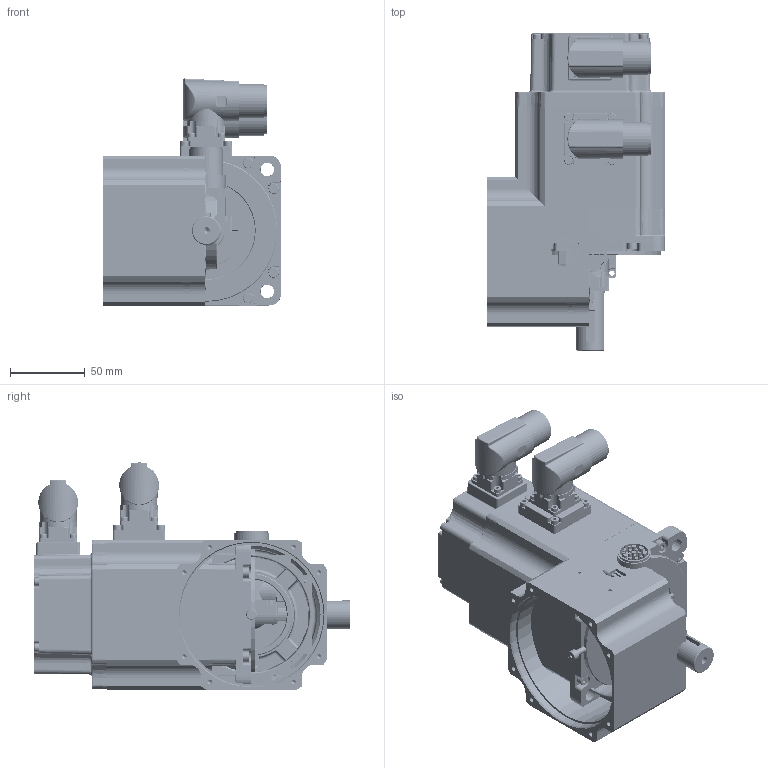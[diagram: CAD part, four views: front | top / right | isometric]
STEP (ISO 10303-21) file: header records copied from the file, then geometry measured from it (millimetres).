
FILE_DESCRIPTION( ( 'Unknown' ), '1' );
FILE_NAME( 'K:/121010-AL Files 3D Step con chiavetta/Q0A517_3,2.stp', 'Unknown', ( 'Unknown' ), ( 'Unknown' ), 'PSStep 14.0', 'Unknown', ' ' );
FILE_SCHEMA( ( 'AUTOMOTIVE_DESIGN { 1 0 10303 214 1 1 1 1 }' ) );
Length unit declared in the file: millimetre
Products named in the file (35): Assem1; anello-elastico-chiuso  52; Vite a brugola testa cil 8,8 -  M  4 x 30; A-Ela 20 P; N11235; N09447; N33454; CUSC_20_52_15_6304_ZZ; CUSC_20_47_14_6204_ZZ; Vite a brugola testa cil 8,8 -  M  4 x 12; Vite a brugola testa cil 8,8 -  M  3 x 40; Vite a brugola testa cil 8,8 -  M  3 x 40-oa0; Vite a brugola testa cil 8,8 -  M  3 x 40-oa1; Vite a brugola testa cil 8,8 -  M  3 x 40-oa2; Vite a brugola testa cil 8,8 -  M 2,5 x 8; N45204; Vite a brugola testa cil 8,8 -  M  3 x 10; CN M23 PAN-POT BEDC 110 4+4 pin 90°o SpTcR; LI-PIA   6x6 x 30; CN M23 PAN-SEG AEDC 139 17 pin 90°o SpTcR; N25412_3,5; ALBERO TC100 3,5 M80
Bounding box: 119 x 211.5 x 151.46 mm (x, y, z)
Volume: 1260889.2 mm3; surface area: 511800.7 mm2
Topology: 88 solids, 92 shells, 3932 faces, 9516 edges, 6022 vertices
Faces by surface type: plane 1768, cylinder 1010, cone 384, bspline 308, torus 290, sphere 110, extrusion 62
Full cylindrical faces by diameter (mm): 2 x50, 2.013 x10, 2.459 x36, 2.5 x17, 2.7 x16, 3 x21, 3.242 x52, 3.5 x16, 4 x14, 4.7 x9, 4.917 x2, 5.5 x15, 7 x14, 12 x2, 17 x4, 19 x4, 19.8 x4, 20 x16, 21.3 x4, 23 x4, 24.5 x4, 25 x4, 28.64 x8, 30.24 x8, 33 x4, 36 x6, 38.36 x8, 39 x4, 41.76 x8, 43 x2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
Entity records: 73664 total; most frequent: CARTESIAN_POINT 21315, DIRECTION 8357, ORIENTED_EDGE 7998, EDGE_CURVE 3999, AXIS2_PLACEMENT_3D 3167, VERTEX_POINT 2717, EDGE_LOOP 2359, FACE_OUTER_BOUND 2033
